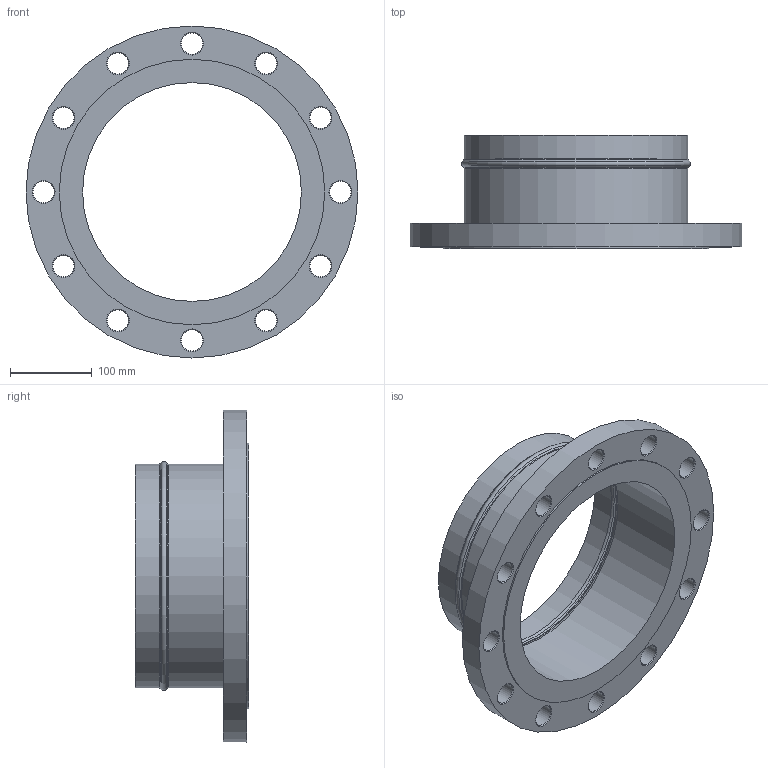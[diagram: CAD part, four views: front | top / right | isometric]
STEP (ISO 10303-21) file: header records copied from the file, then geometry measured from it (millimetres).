
FILE_DESCRIPTION(/* description */ (''),/* implementation_level */ '2;1');
FILE_NAME(/* name */ '30270120001.stp',/* time_stamp */ '2024-01-30T10:46:50+08:00',/* author */ (''),/* organization */ (''),/* preprocessor_version */ 'ST-DEVELOPER v11',/* originating_system */ 'SIEMENS PLM Software NX 7.5',/* authorisation */ '');
FILE_SCHEMA (('CONFIG_CONTROL_DESIGN'));
Length unit declared in the file: millimetre
Products named in the file (1): Admi8C001wc9
Bounding box: 405 x 138 x 405 mm (x, y, z)
Volume: 2232007.3 mm3; surface area: 410229.8 mm2
Topology: 1 solids, 1 shells, 56 faces, 156 edges, 104 vertices
Faces by surface type: cone 28, cylinder 18, torus 6, plane 4
Full cylindrical faces by diameter (mm): 26 x12, 267 x2, 273 x2, 323.8 x1, 405 x1
Entity records: 1382 total; most frequent: DIRECTION 250, CARTESIAN_POINT 193, FACE_BOUND 136, EDGE_LOOP 136, ORIENTED_EDGE 136, AXIS2_PLACEMENT_3D 125, VERTEX_POINT 68, EDGE_CURVE 68
